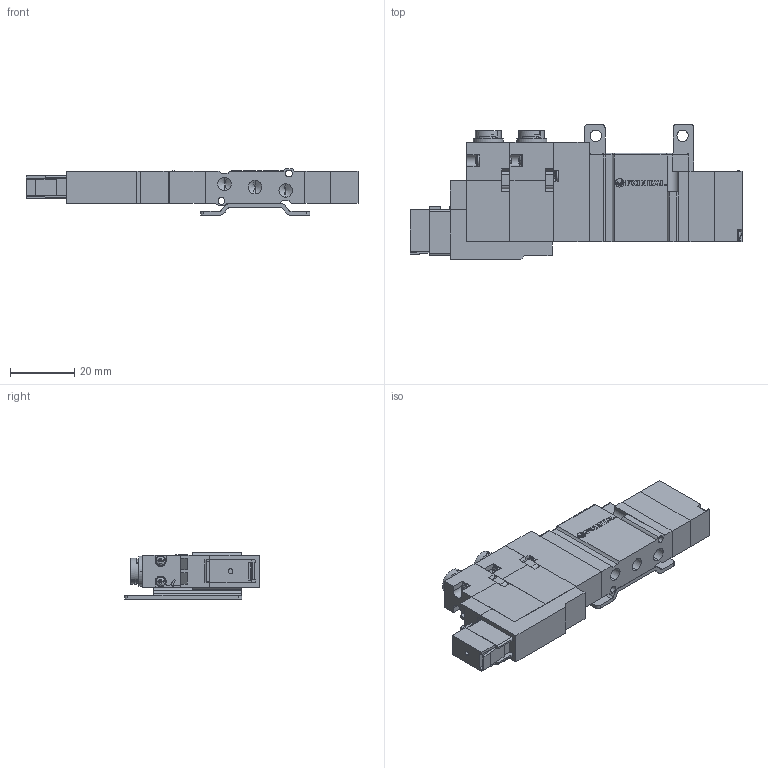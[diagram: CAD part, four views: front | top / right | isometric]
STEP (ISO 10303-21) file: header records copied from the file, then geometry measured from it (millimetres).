
FILE_DESCRIPTION (( 'STEP AP203' ), '1' );
FILE_NAME ('A05FD(E¡BO)35#-BS-#-#-E.STEP', '2016-02-04T01:50:41', ( 'Sam Lin' ), ( '' ), 'SwSTEP 2.0', 'SolidWorks 2013', '' );
FILE_SCHEMA (( 'CONFIG_CONTROL_DESIGN' ));
Length unit declared in the file: metre
Products named in the file (16): A05FS25-6; mark-ADEX-A05RS; A05FS25-2; A05RS25-3; A05RS25-12; A05RS25-4; A05FS25-4; A05RS25-5; A05FS25-5; A05RS25-6; A05FD(E、O)35#-BS-#-#-E; DC24-A05F-1; DC24-A05G-3; A05RS25-1; DC24-A05F-2; ISO 7045 - M1.6 x 10
Assembly tree (28 placements, depth 2):
  A05FD(E、O)35#-BS-#-#-E
    A05RS25-1
    ISO 7045 - M1.6 x 10  x8
    mark-ADEX-A05RS
    A05RS25-3  x2
    A05RS25-4  x2
    A05RS25-5  x2
    A05RS25-6  x4
    DC24-A05F-1
    DC24-A05G-3
    DC24-A05F-2
    A05FS25-6
    A05FS25-2
    A05RS25-12
    A05FS25-4
    A05FS25-5
Bounding box: 103.3 x 42 x 14.4 mm (x, y, z)
Volume: 27343.3 mm3; surface area: 18877.8 mm2
Topology: 36 solids, 36 shells, 938 faces, 2402 edges, 1528 vertices
Faces by surface type: plane 590, cylinder 196, cone 86, bspline 66
Entity records: 18102 total; most frequent: CARTESIAN_POINT 3536, ORIENTED_EDGE 2606, DIRECTION 2561, EDGE_CURVE 1303, LINE 937, VECTOR 937, VERTEX_POINT 855, AXIS2_PLACEMENT_3D 812
